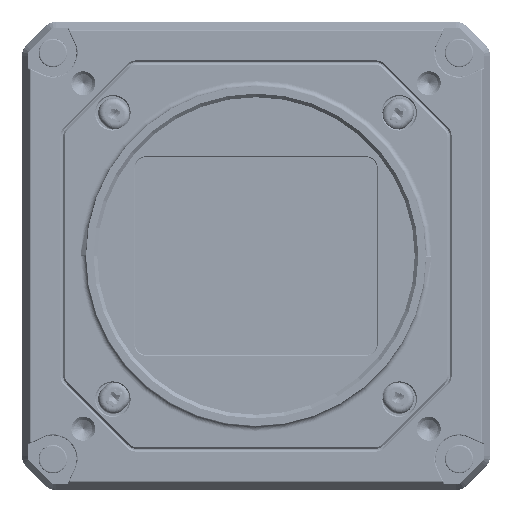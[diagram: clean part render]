
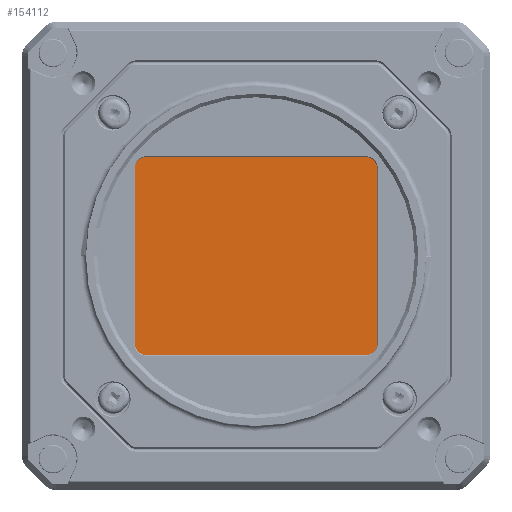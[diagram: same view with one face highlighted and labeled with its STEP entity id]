
A CAD part, left-side view. The second image highlights one B-rep face of the part: STEP entity #154112.
In plain terms, the highlighted planar face has unit normal (-1, 0, 0).
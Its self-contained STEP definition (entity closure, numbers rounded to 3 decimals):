
#153951=CARTESIAN_POINT('',(5.8,-23.65,
18.7));
#153952=DIRECTION('',(1.,0.,0.));
#153953=DIRECTION('',(0.,0.,1.));
#153954=AXIS2_PLACEMENT_3D('',#153951,#153952,#153953);
#153956=CARTESIAN_POINT('',(5.8,-23.65,
-18.7));
#153957=DIRECTION('',(1.,0.,0.));
#153958=DIRECTION('',(0.,-1.,0.));
#153959=AXIS2_PLACEMENT_3D('',#153956,#153957,#153958);
#153961=CARTESIAN_POINT('',(5.8,23.65,
-18.7));
#153962=DIRECTION('',(1.,0.,0.));
#153963=DIRECTION('',(0.,0.,
-1.));
#153964=AXIS2_PLACEMENT_3D('',#153961,#153962,#153963);
#153966=CARTESIAN_POINT('',(5.8,23.65,
18.7));
#153967=DIRECTION('',(1.,0.,0.));
#153968=DIRECTION('',(0.,1.,0.));
#153969=AXIS2_PLACEMENT_3D('',#153966,#153967,#153968);
#153979=DIRECTION('',(0.,0.,1.));
#153980=VECTOR('',#153979,37.4);
#153981=CARTESIAN_POINT('',(5.8,-27.45,
-18.7));
#153982=LINE('',#153981,#153980);
#153991=DIRECTION('',(0.,-1.,0.));
#153992=VECTOR('',#153991,47.3);
#153993=CARTESIAN_POINT('',(5.8,23.65,
-22.5));
#153994=LINE('',#153993,#153992);
#154003=DIRECTION('',(0.,0.,
-1.));
#154004=VECTOR('',#154003,37.4);
#154005=CARTESIAN_POINT('',(5.8,27.45,
18.7));
#154006=LINE('',#154005,#154004);
#154015=DIRECTION('',(0.,1.,0.));
#154016=VECTOR('',#154015,47.3);
#154017=CARTESIAN_POINT('',(5.8,-23.65,
22.5));
#154018=LINE('',#154017,#154016);
#154019=CARTESIAN_POINT('',(5.8,-23.65,
22.5));
#154020=CARTESIAN_POINT('',(5.8,-27.45,
18.7));
#154021=VERTEX_POINT('',#154019);
#154022=VERTEX_POINT('',#154020);
#154023=CARTESIAN_POINT('',(5.8,-27.45,
-18.7));
#154024=CARTESIAN_POINT('',(5.8,-23.65,
-22.5));
#154025=VERTEX_POINT('',#154023);
#154026=VERTEX_POINT('',#154024);
#154027=CARTESIAN_POINT('',(5.8,23.65,
-22.5));
#154028=CARTESIAN_POINT('',(5.8,27.45,
-18.7));
#154029=VERTEX_POINT('',#154027);
#154030=VERTEX_POINT('',#154028);
#154031=CARTESIAN_POINT('',(5.8,27.45,
18.7));
#154032=CARTESIAN_POINT('',(5.8,23.65,
22.5));
#154033=VERTEX_POINT('',#154031);
#154034=VERTEX_POINT('',#154032);
#154090=CARTESIAN_POINT('',(5.8,0.,
0.));
#154091=DIRECTION('',(1.,0.,0.));
#154092=DIRECTION('',(0.,1.,0.));
#154093=AXIS2_PLACEMENT_3D('',#154090,#154091,#154092);
#154094=PLANE('',#154093);
#154095=ORIENTED_EDGE('',*,*,#154080,.T.);
#154097=ORIENTED_EDGE('',*,*,#154096,.F.);
#154099=ORIENTED_EDGE('',*,*,#154098,.T.);
#154101=ORIENTED_EDGE('',*,*,#154100,.F.);
#154103=ORIENTED_EDGE('',*,*,#154102,.T.);
#154105=ORIENTED_EDGE('',*,*,#154104,.F.);
#154107=ORIENTED_EDGE('',*,*,#154106,.T.);
#154109=ORIENTED_EDGE('',*,*,#154108,.F.);
#154110=EDGE_LOOP('',(#154095,#154097,#154099,#154101,#154103,#154105,#154107,
#154109));
#154111=FACE_OUTER_BOUND('',#154110,.F.);
#154112=ADVANCED_FACE('',(#154111),#154094,.F.);
#153955=CIRCLE('',#153954,3.8);
#153960=CIRCLE('',#153959,3.8);
#153965=CIRCLE('',#153964,3.8);
#153970=CIRCLE('',#153969,3.8);
#154080=EDGE_CURVE('',#154021,#154022,#153955,.T.);
#154096=EDGE_CURVE('',#154025,#154022,#153982,.T.);
#154098=EDGE_CURVE('',#154025,#154026,#153960,.T.);
#154100=EDGE_CURVE('',#154029,#154026,#153994,.T.);
#154102=EDGE_CURVE('',#154029,#154030,#153965,.T.);
#154104=EDGE_CURVE('',#154033,#154030,#154006,.T.);
#154106=EDGE_CURVE('',#154033,#154034,#153970,.T.);
#154108=EDGE_CURVE('',#154021,#154034,#154018,.T.);
